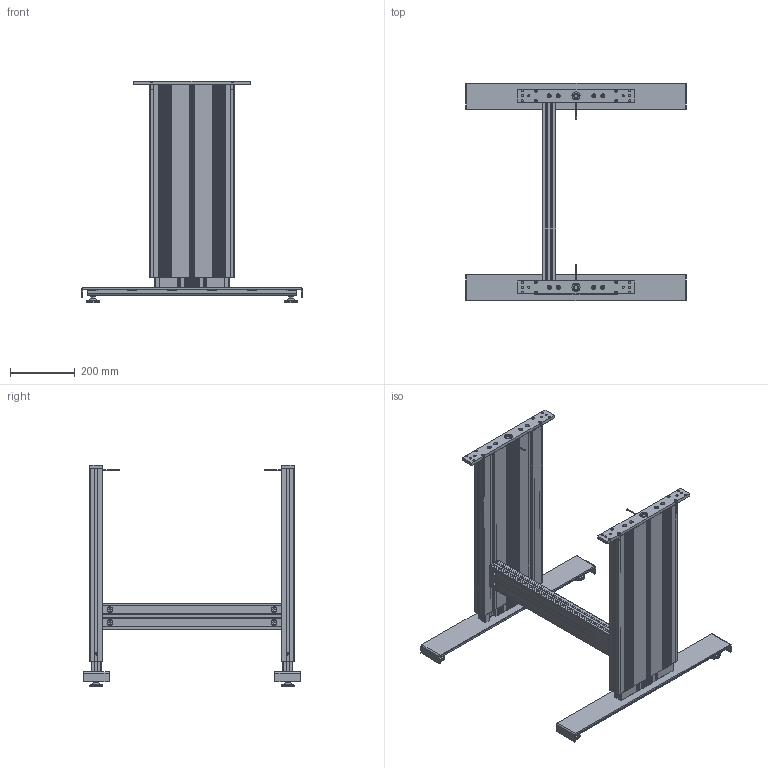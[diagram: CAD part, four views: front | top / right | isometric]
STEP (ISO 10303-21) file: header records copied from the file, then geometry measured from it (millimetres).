
FILE_DESCRIPTION(/* description */ ('Unknown'),/* implementation_level */ '2;1');
FILE_NAME(/* name */ '108.00430 Untergestell TT-2 1840 590_eingefahren',/* time_stamp */ '2017-11-24T15:59:12+01:00',/* author */ ('Unknown'),/* organization */ ('Unknown'),/* preprocessor_version */ 'ST-DEVELOPER v16.7',/* originating_system */ 'DEX',/* authorisation */ $);
FILE_SCHEMA (('AUTOMOTIVE_DESIGN {1 0 10303 214 3 1 1}'));
Products named in the file (30): 108.00430; 106.00385_oa_0; 119.00201; 119.00152; 142.00188; 142.00166; 142.00031; 126.00102; 109.00025_oa_1; 115.00008_oa_2; 125.00063; 142.00021; 125.00021; 113.00002_70mm; 106.00385_oa_3; 109.00025_oa_4; 115.00008_oa_5; 115.00091; 119.00171; 142.00207; 127.00515; 127.00520; 127.00556; 127.00557; 127.00520_461_469_Kehlnaht 1_oa_6; 113.00095; 113.00099; 113.00096; 113.00097; 113.00098
Assembly tree (52 placements, depth 5):
  108.00430
    106.00385_oa_0
      119.00201
      119.00152
      142.00188  x2
      142.00166  x4
      142.00031
      126.00102
      109.00025_oa_1
        115.00008_oa_2
        125.00063
        142.00021
        125.00021
      113.00002_70mm
    106.00385_oa_3
      119.00201
      119.00152
      142.00188  x2
      142.00166  x4
      142.00031
      126.00102
      109.00025_oa_4
        115.00008_oa_5
        125.00063
        142.00021
        125.00021
      113.00002_70mm
    115.00091
      119.00171
      142.00207  x4
    127.00515  x2
      127.00520
        127.00556
        127.00557
        127.00520_461_469_Kehlnaht 1_oa_6
      113.00095
        113.00099
        113.00096
          113.00097
          113.00098
Bounding box: 680 x 670 x 683.5 mm (x, y, z)
Volume: 6632449.8 mm3; surface area: 4771993.7 mm2
Topology: 73 solids, 81 shells, 4884 faces, 13898 edges, 9236 vertices
Faces by surface type: plane 3036, cylinder 1548, cone 194, torus 72, bspline 24, sphere 10
Full cylindrical faces by diameter (mm): 1.8 x4, 2.2 x2, 2.99 x2, 3.242 x4, 3.5 x2, 4 x6, 4.1 x2, 4.2 x2, 5 x12, 5.5 x8, 6.6 x8, 6.647 x16, 6.917 x4, 7.5 x4, 8 x16, 8.376 x6, 8.5 x20, 8.7 x8, 10 x8, 11.3 x8, 12 x4, 12.5 x10, 13 x4, 13.5 x6, 13.7 x2, 14.4 x2, 17.9 x4, 18 x16, 25 x10, 27.2 x4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
Entity records: 85317 total; most frequent: CARTESIAN_POINT 14590, ORIENTED_EDGE 13064, DIRECTION 12703, EDGE_CURVE 6532, LINE 4481, VECTOR 4481, VERTEX_POINT 4423, AXIS2_PLACEMENT_3D 4111
